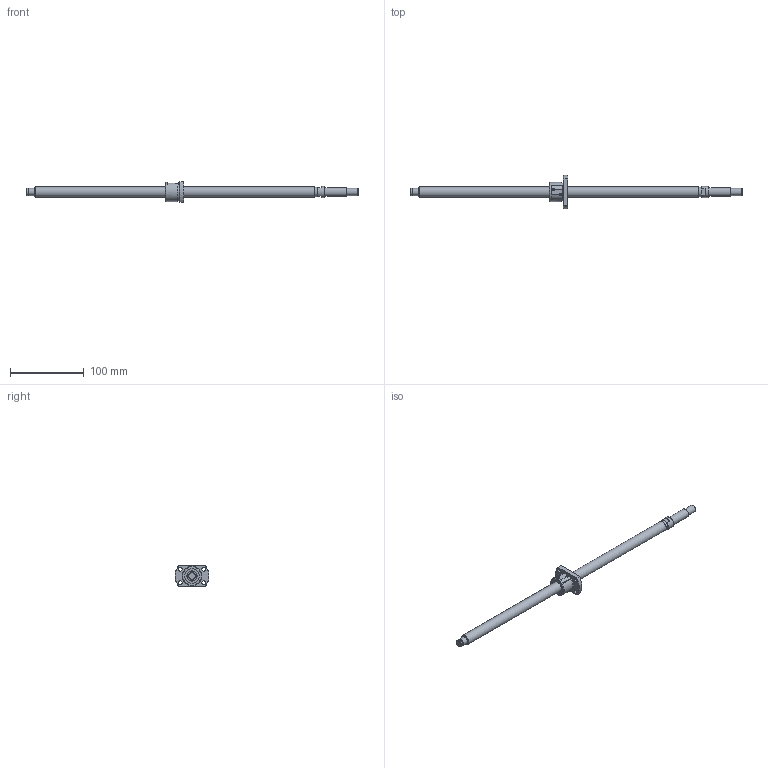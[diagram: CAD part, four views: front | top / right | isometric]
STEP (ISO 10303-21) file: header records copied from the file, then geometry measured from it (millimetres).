
FILE_DESCRIPTION(/* description */ ('STEP AP214'),/* implementation_level */ '2;1');
FILE_NAME(/* name */ 'SG1402-379R450C3B0X(177)',/* time_stamp */ '2026-07-24T21:00:33+02:00',/* author */ ('License CC BY-ND 4.0'),/* organization */ ('CADENAS'),/* preprocessor_version */ 'ST-DEVELOPER v20',/* originating_system */ 'PARTsolutions',/* authorisation */ ' ');
FILE_SCHEMA (('AUTOMOTIVE_DESIGN {1 0 10303 214 3 1 1}'));
Length unit declared in the file: millimetre
Products named in the file (3): SG1402-379R450C3B0X(177); SG1402-379R450C3B_shaft; SG1402_nut
Assembly tree (2 placements, depth 2):
  SG1402-379R450C3B0X(177)
    SG1402-379R450C3B_shaft
    SG1402_nut
Bounding box: 450 x 46 x 28 mm (x, y, z)
Volume: 78274.9 mm3; surface area: 25457 mm2
Topology: 2 solids, 2 shells, 85 faces, 201 edges, 131 vertices
Faces by surface type: plane 41, cylinder 29, cone 14, torus 1
Full cylindrical faces by diameter (mm): 5.5 x4, 9.6 x1, 10 x3, 12 x1, 12.77 x1, 14 x2, 15 x1, 20 x2, 25.6 x1, 26 x1
Entity records: 2355 total; most frequent: CARTESIAN_POINT 432, DIRECTION 404, ORIENTED_EDGE 326, AXIS2_PLACEMENT_3D 171, EDGE_CURVE 163, EDGE_LOOP 134, FACE_BOUND 134, VERTEX_POINT 121
